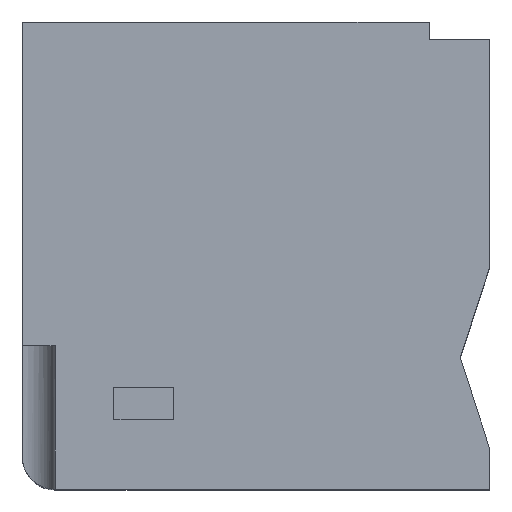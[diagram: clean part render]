
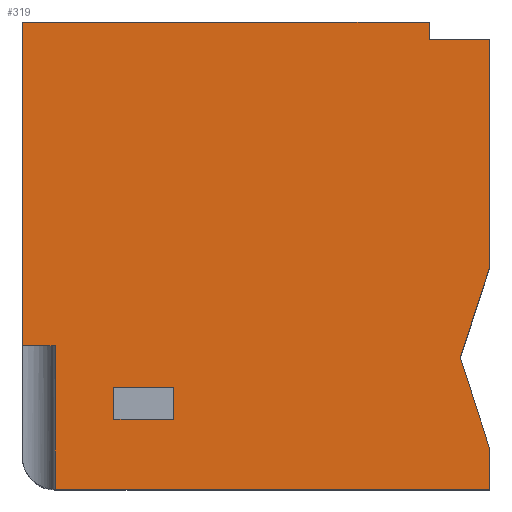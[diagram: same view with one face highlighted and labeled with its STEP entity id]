
A CAD part, top view. The second image highlights one B-rep face of the part: STEP entity #319.
In plain terms, the highlighted planar face has unit normal (0, 0, 1).
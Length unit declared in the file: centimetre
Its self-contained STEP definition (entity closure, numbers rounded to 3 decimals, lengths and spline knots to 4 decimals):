
#15 = DIRECTION ( 'NONE',  ( -1., 0., 0. ) ) ;
#17 = ORIENTED_EDGE ( 'NONE', *, *, #532, .T. ) ;
#25 = EDGE_CURVE ( 'NONE', #34, #701, #273, .T. ) ;
#34 = VERTEX_POINT ( 'NONE', #726 ) ;
#43 = VERTEX_POINT ( 'NONE', #914 ) ;
#50 = DIRECTION ( 'NONE',  ( 1., 0., 0. ) ) ;
#63 = CARTESIAN_POINT ( 'NONE',  ( 0., 1000., 1000. ) ) ;
#66 = VECTOR ( 'NONE', #50, 100. ) ;
#74 = CARTESIAN_POINT ( 'NONE',  ( 0., 0., 1000. ) ) ;
#97 = VECTOR ( 'NONE', #1139, 100. ) ;
#98 = DIRECTION ( 'NONE',  ( 1., 0., 0. ) ) ;
#138 = VERTEX_POINT ( 'NONE', #747 ) ;
#140 = EDGE_CURVE ( 'NONE', #138, #250, #1127, .T. ) ;
#143 = VERTEX_POINT ( 'NONE', #332 ) ;
#163 = VECTOR ( 'NONE', #625, 100. ) ;
#181 = LINE ( 'NONE', #1158, #893 ) ;
#188 = CARTESIAN_POINT ( 'NONE',  ( 0., 1000., 1000. ) ) ;
#192 = CARTESIAN_POINT ( 'NONE',  ( 195.8853, 218.3131, 1000. ) ) ;
#199 = PLANE ( 'NONE',  #538 ) ;
#226 = EDGE_CURVE ( 'NONE', #684, #597, #293, .T. ) ;
#239 = EDGE_CURVE ( 'NONE', #947, #43, #181, .T. ) ;
#250 = VERTEX_POINT ( 'NONE', #1051 ) ;
#251 = CARTESIAN_POINT ( 'NONE',  ( 0., 307.5489, 1000. ) ) ;
#252 = DIRECTION ( 'NONE',  ( 0., 1., 0. ) ) ;
#256 = VECTOR ( 'NONE', #946, 100. ) ;
#270 = DIRECTION ( 'NONE',  ( 0., 1., 0. ) ) ;
#273 = LINE ( 'NONE', #63, #163 ) ;
#275 = ORIENTED_EDGE ( 'NONE', *, *, #954, .F. ) ;
#290 = VERTEX_POINT ( 'NONE', #369 ) ;
#293 = LINE ( 'NONE', #1148, #739 ) ;
#303 = EDGE_CURVE ( 'NONE', #505, #138, #968, .T. ) ;
#312 = CARTESIAN_POINT ( 'NONE',  ( 323.6654, 149.814, 1000. ) ) ;
#314 = EDGE_LOOP ( 'NONE', ( #17, #994, #1175, #773, #603, #988, #970, #357, #702, #796, #1179 ) ) ;
#318 = LINE ( 'NONE', #984, #339 ) ;
#319 = ADVANCED_FACE ( 'NONE', ( #963, #865 ), #199, .T. ) ;
#322 = VECTOR ( 'NONE', #1132, 100. ) ;
#328 = VECTOR ( 'NONE', #1176, 100. ) ;
#332 = CARTESIAN_POINT ( 'NONE',  ( 69.9574, 0., 1000. ) ) ;
#339 = VECTOR ( 'NONE', #630, 100. ) ;
#349 = ORIENTED_EDGE ( 'NONE', *, *, #303, .F. ) ;
#350 = CARTESIAN_POINT ( 'NONE',  ( 1000., 963.4941, 1000. ) ) ;
#357 = ORIENTED_EDGE ( 'NONE', *, *, #239, .F. ) ;
#369 = CARTESIAN_POINT ( 'NONE',  ( 323.6654, 218.3131, 1000. ) ) ;
#402 = EDGE_CURVE ( 'NONE', #1123, #43, #415, .T. ) ;
#407 = VERTEX_POINT ( 'NONE', #887 ) ;
#415 = LINE ( 'NONE', #799, #945 ) ;
#422 = EDGE_CURVE ( 'NONE', #701, #407, #318, .T. ) ;
#426 = CARTESIAN_POINT ( 'NONE',  ( 937.1654, 281.604, 1000. ) ) ;
#453 = CARTESIAN_POINT ( 'NONE',  ( 937.1654, 281.604, 1000. ) ) ;
#477 = EDGE_CURVE ( 'NONE', #250, #290, #1106, .T. ) ;
#496 = EDGE_CURVE ( 'NONE', #143, #1123, #1050, .T. ) ;
#505 = VERTEX_POINT ( 'NONE', #192 ) ;
#519 = ORIENTED_EDGE ( 'NONE', *, *, #477, .F. ) ;
#521 = CARTESIAN_POINT ( 'NONE',  ( 195.8853, 149.814, 1000. ) ) ;
#532 = EDGE_CURVE ( 'NONE', #597, #828, #847, .T. ) ;
#538 = AXIS2_PLACEMENT_3D ( 'NONE', #1241, #576, #98 ) ;
#551 = DIRECTION ( 'NONE',  ( 1., 0., 0. ) ) ;
#554 = CARTESIAN_POINT ( 'NONE',  ( 1000., 1000., 1000. ) ) ;
#576 = DIRECTION ( 'NONE',  ( 0., 0., 1. ) ) ;
#597 = VERTEX_POINT ( 'NONE', #864 ) ;
#603 = ORIENTED_EDGE ( 'NONE', *, *, #744, .F. ) ;
#625 = DIRECTION ( 'NONE',  ( 0., -1., 0. ) ) ;
#630 = DIRECTION ( 'NONE',  ( 1., 0., 0. ) ) ;
#633 = LINE ( 'NONE', #843, #1217 ) ;
#646 = LINE ( 'NONE', #554, #256 ) ;
#668 = EDGE_LOOP ( 'NONE', ( #349, #275, #519, #939 ) ) ;
#671 = CARTESIAN_POINT ( 'NONE',  ( 195.8853, 149.814, 1000. ) ) ;
#683 = DIRECTION ( 'NONE',  ( 0.308, -0.951, 0. ) ) ;
#684 = VERTEX_POINT ( 'NONE', #350 ) ;
#701 = VERTEX_POINT ( 'NONE', #251 ) ;
#702 = ORIENTED_EDGE ( 'NONE', *, *, #1230, .F. ) ;
#726 = CARTESIAN_POINT ( 'NONE',  ( 0., 1000., 1000. ) ) ;
#739 = VECTOR ( 'NONE', #15, 100. ) ;
#744 = EDGE_CURVE ( 'NONE', #143, #407, #835, .T. ) ;
#747 = CARTESIAN_POINT ( 'NONE',  ( 195.8853, 149.814, 1000. ) ) ;
#758 = CARTESIAN_POINT ( 'NONE',  ( 870.5724, 1000., 1000. ) ) ;
#761 = DIRECTION ( 'NONE',  ( 0., -1., 0. ) ) ;
#765 = VECTOR ( 'NONE', #551, 100. ) ;
#772 = LINE ( 'NONE', #188, #97 ) ;
#773 = ORIENTED_EDGE ( 'NONE', *, *, #422, .T. ) ;
#796 = ORIENTED_EDGE ( 'NONE', *, *, #979, .T. ) ;
#799 = CARTESIAN_POINT ( 'NONE',  ( 1000., 1000., 1000. ) ) ;
#822 = DIRECTION ( 'NONE',  ( 0., 1., 0. ) ) ;
#828 = VERTEX_POINT ( 'NONE', #758 ) ;
#835 = LINE ( 'NONE', #854, #940 ) ;
#843 = CARTESIAN_POINT ( 'NONE',  ( 195.8853, 218.3131, 1000. ) ) ;
#847 = LINE ( 'NONE', #1126, #322 ) ;
#854 = CARTESIAN_POINT ( 'NONE',  ( 69.9574, 307.5489, 1000. ) ) ;
#864 = CARTESIAN_POINT ( 'NONE',  ( 870.5724, 963.4941, 1000. ) ) ;
#865 = FACE_OUTER_BOUND ( 'NONE', #314, .T. ) ;
#873 = CARTESIAN_POINT ( 'NONE',  ( 1000., 0., 1000. ) ) ;
#887 = CARTESIAN_POINT ( 'NONE',  ( 69.9574, 307.5489, 1000. ) ) ;
#893 = VECTOR ( 'NONE', #683, 100. ) ;
#914 = CARTESIAN_POINT ( 'NONE',  ( 1000., 87.8118, 1000. ) ) ;
#922 = DIRECTION ( 'NONE',  ( -1., 0., 0. ) ) ;
#933 = VECTOR ( 'NONE', #252, 100. ) ;
#939 = ORIENTED_EDGE ( 'NONE', *, *, #140, .F. ) ;
#940 = VECTOR ( 'NONE', #270, 100. ) ;
#945 = VECTOR ( 'NONE', #822, 100. ) ;
#946 = DIRECTION ( 'NONE',  ( 0., 1., 0. ) ) ;
#947 = VERTEX_POINT ( 'NONE', #453 ) ;
#953 = CARTESIAN_POINT ( 'NONE',  ( 1000., 475.3961, 1000. ) ) ;
#954 = EDGE_CURVE ( 'NONE', #290, #505, #633, .T. ) ;
#963 = FACE_BOUND ( 'NONE', #668, .T. ) ;
#968 = LINE ( 'NONE', #671, #1083 ) ;
#970 = ORIENTED_EDGE ( 'NONE', *, *, #402, .T. ) ;
#979 = EDGE_CURVE ( 'NONE', #1111, #684, #646, .T. ) ;
#984 = CARTESIAN_POINT ( 'NONE',  ( 0., 307.5489, 1000. ) ) ;
#988 = ORIENTED_EDGE ( 'NONE', *, *, #496, .T. ) ;
#994 = ORIENTED_EDGE ( 'NONE', *, *, #1108, .T. ) ;
#1006 = LINE ( 'NONE', #426, #328 ) ;
#1050 = LINE ( 'NONE', #74, #765 ) ;
#1051 = CARTESIAN_POINT ( 'NONE',  ( 323.6654, 149.814, 1000. ) ) ;
#1083 = VECTOR ( 'NONE', #761, 100. ) ;
#1106 = LINE ( 'NONE', #312, #933 ) ;
#1108 = EDGE_CURVE ( 'NONE', #828, #34, #772, .T. ) ;
#1111 = VERTEX_POINT ( 'NONE', #953 ) ;
#1123 = VERTEX_POINT ( 'NONE', #873 ) ;
#1126 = CARTESIAN_POINT ( 'NONE',  ( 870.5724, 963.4941, 1000. ) ) ;
#1127 = LINE ( 'NONE', #521, #66 ) ;
#1132 = DIRECTION ( 'NONE',  ( 0., 1., 0. ) ) ;
#1139 = DIRECTION ( 'NONE',  ( -1., 0., 0. ) ) ;
#1148 = CARTESIAN_POINT ( 'NONE',  ( 870.5724, 963.4941, 1000. ) ) ;
#1158 = CARTESIAN_POINT ( 'NONE',  ( 1000., 87.8118, 1000. ) ) ;
#1175 = ORIENTED_EDGE ( 'NONE', *, *, #25, .T. ) ;
#1176 = DIRECTION ( 'NONE',  ( -0.308, -0.951, 0. ) ) ;
#1179 = ORIENTED_EDGE ( 'NONE', *, *, #226, .T. ) ;
#1217 = VECTOR ( 'NONE', #922, 100. ) ;
#1230 = EDGE_CURVE ( 'NONE', #1111, #947, #1006, .T. ) ;
#1241 = CARTESIAN_POINT ( 'NONE',  ( 0., 0., 1000. ) ) ;
